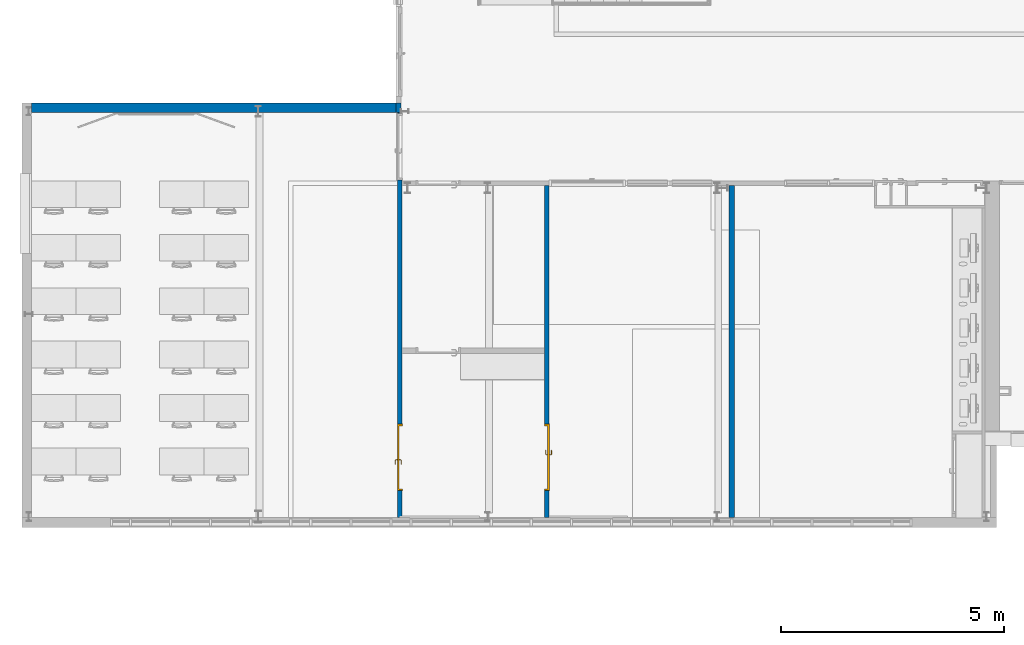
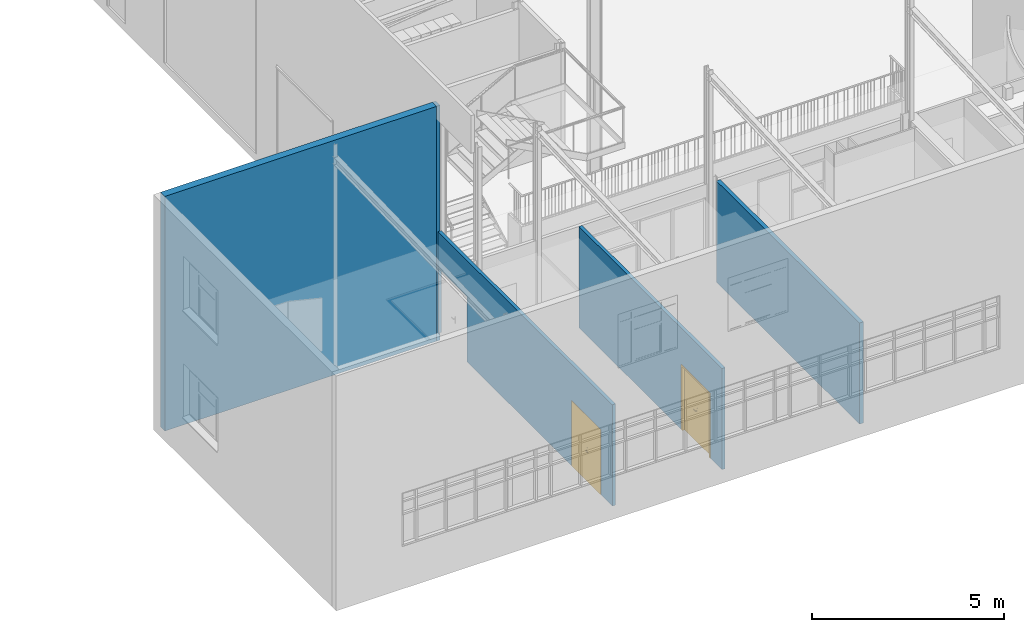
# One storey, part 36 of 137: 5 walls, 2 doors, 3 openings.
"""IFC2X3 building model written with IfcOpenShell, lengths in centimetres."""

import ifcopenshell
import ifcopenshell.guid

model = None  # the IFC model being written
_history = None  # IfcOwnerHistory: only IFC2X3 demands one
_inside = {}  # id of a spatial element -> (the spatial element, [elements in it])
_under = {}  # id of a project, library or spatial element -> (it, [spatial elements below it])
_declared = {}  # id of a project -> (the project, [libraries it declares])
_typed = {}  # id of a type object -> (the type object, [elements of that type])
_made_of = {}  # id of a material, layer set ... -> (it, [elements and type objects made of it])


def new_model(schema):
    """Start an empty IFC model of exactly this schema.

    Asked for "IFC4X3", IfcOpenShell would pick the latest addendum, in which some entities
    have other attributes; the version numbers below select the first issue.
    IFC2X3 requires an IfcOwnerHistory on every rooted entity: one is made here for all.
    """
    global model, _history
    if schema == "IFC4X3":
        model = ifcopenshell.file(schema_version=(4, 3, 0, 0))
    else:
        model = ifcopenshell.file(schema=schema)
    _inside.clear()
    _under.clear()
    _declared.clear()
    _typed.clear()
    _made_of.clear()
    _history = None
    if model.schema == "IFC2X3":
        org = make("IfcOrganization", Name="unknown")
        user = make(
            "IfcPersonAndOrganization",
            ThePerson=make("IfcPerson", FamilyName="unknown"),
            TheOrganization=org,
        )
        app = make(
            "IfcApplication",
            ApplicationDeveloper=org,
            Version="unknown",
            ApplicationFullName="unknown",
            ApplicationIdentifier="unknown",
        )
        _history = make(
            "IfcOwnerHistory",
            OwningUser=user,
            OwningApplication=app,
            ChangeAction="ADDED",
            CreationDate=0,
        )
    return model


def make(cls, **values):
    """One entity of the class cls with the attributes given. An attribute that is None is left unset."""
    return model.create_entity(
        cls, **{name: value for name, value in values.items() if value is not None}
    )


def entity(cls, *values):
    """Any entity or typed value of the class cls, its attributes in the order of the schema. None: left unset."""
    e = model.create_entity(cls)
    for i, value in enumerate(values):
        if value is not None:
            e[i] = value
    return e


def rooted(cls, **values):
    """An entity with a GlobalId (a new one), such as an element, a storey or a relation."""
    return make(cls, GlobalId=ifcopenshell.guid.new(), OwnerHistory=_history, **values)


def si_unit(unit_type, name, prefix=None):
    """IfcSIUnit, for example si_unit("LENGTHUNIT", "METRE", prefix="MILLI")."""
    return make("IfcSIUnit", UnitType=unit_type, Prefix=prefix, Name=name)


def converted_unit(unit_type, name, factor, base, dimensions=None, offset=None):
    """IfcConversionBasedUnit, such as the inch: factor (a typed value) times the base unit."""
    return make(
        "IfcConversionBasedUnit"
        if offset is None
        else "IfcConversionBasedUnitWithOffset",
        ConversionOffset=offset,
        Dimensions=None
        if dimensions is None
        else entity("IfcDimensionalExponents", *dimensions),
        UnitType=unit_type,
        Name=name,
        ConversionFactor=make(
            "IfcMeasureWithUnit", ValueComponent=factor, UnitComponent=base
        ),
    )


def derived_unit(unit_type, elements):
    """IfcDerivedUnit: a product of units, each with its exponent."""
    return make(
        "IfcDerivedUnit",
        Elements=[
            make("IfcDerivedUnitElement", Unit=unit, Exponent=power)
            for unit, power in elements
        ],
        UnitType=unit_type,
    )


def assignment(units):
    """IfcUnitAssignment: the units of a project."""
    return None if units is None else make("IfcUnitAssignment", Units=units)


def point(xyz):
    """IfcCartesianPoint."""
    return None if xyz is None else make("IfcCartesianPoint", Coordinates=xyz)


def direction(xyz):
    """IfcDirection."""
    return None if xyz is None else make("IfcDirection", DirectionRatios=xyz)


def frame(location, z_axis=None, x_axis=None):
    """IfcAxis2Placement3D, a coordinate frame: its origin and axes. An axis left out is left unset."""
    return make(
        "IfcAxis2Placement3D",
        Location=point(location),
        Axis=direction(z_axis),
        RefDirection=direction(x_axis),
    )


def frame_2d(location, x_axis=None):
    """IfcAxis2Placement2D, a coordinate frame in the plane: its origin and x axis."""
    return make(
        "IfcAxis2Placement2D", Location=point(location), RefDirection=direction(x_axis)
    )


def origin():
    """The frame at (0, 0, 0) with its axes left unset."""
    return frame((0.0, 0.0, 0.0))


def place(relative_to, where):
    """IfcLocalPlacement: puts the frame where relative to a parent placement (None: the world)."""
    return make(
        "IfcLocalPlacement", PlacementRelTo=relative_to, RelativePlacement=where
    )


def context(
    kind, dimensions, precision=None, world=None, true_north=None, identifier=None
):
    """IfcGeometricRepresentationContext, for example the 3D "Model" context."""
    return make(
        "IfcGeometricRepresentationContext",
        ContextIdentifier=identifier,
        ContextType=kind,
        CoordinateSpaceDimension=dimensions,
        Precision=precision,
        WorldCoordinateSystem=world,
        TrueNorth=true_north,
    )


def subcontext(parent, identifier, kind, view, scale=None):
    """IfcGeometricRepresentationSubContext, for example "Body" below "Model"."""
    return make(
        "IfcGeometricRepresentationSubContext",
        ContextIdentifier=identifier,
        ContextType=kind,
        ParentContext=parent,
        TargetScale=scale,
        TargetView=view,
    )


def project(units=None, contexts=None):
    """IfcProject with its units and contexts."""
    return rooted(
        "IfcProject",
        Name="project",
        RepresentationContexts=contexts,
        UnitsInContext=assignment(units),
    )


def spatial(cls, under=None, at=None, **own):
    """A site, building, storey or space (cls), placed at a placement, below another one or the project."""
    s = rooted(cls, ObjectPlacement=at, **own)
    if under is not None:
        _under.setdefault(under.id(), (under, []))[1].append(s)
    return s


def polyline(points):
    """IfcPolyline through the points."""
    return make("IfcPolyline", Points=[point(p) for p in points])


def profile(cls, at=None, kind="AREA", **sizes):
    """A parametric profile (cls). Its sizes go by their IFC names, for example OverallWidth=200.0."""
    return make(cls, ProfileType=kind, Position=at, **sizes)


def rectangle(**sizes):
    """IfcRectangleProfileDef."""
    return profile("IfcRectangleProfileDef", **sizes)


def extrude(swept, where, along, depth):
    """IfcExtrudedAreaSolid: the profile swept, set in the frame where, extruded along a direction by depth."""
    return make(
        "IfcExtrudedAreaSolid",
        SweptArea=swept,
        Position=where,
        ExtrudedDirection=direction(along),
        Depth=depth,
    )


def clip(a, b, op="DIFFERENCE"):
    """IfcBooleanClippingResult: the solid a cut by the half space b."""
    return make(
        "IfcBooleanClippingResult", Operator=op, FirstOperand=a, SecondOperand=b
    )


def bounded_halfspace(plane, agree, where, boundary):
    """IfcPolygonalBoundedHalfSpace: a half space limited to a polygon's prism."""
    return make(
        "IfcPolygonalBoundedHalfSpace",
        BaseSurface=make("IfcPlane", Position=plane),
        AgreementFlag=agree,
        Position=where,
        PolygonalBoundary=boundary,
    )


def faces_of(points, faces, orient=None, outer=None):
    """IfcFace entities. A face is a list of loops; a loop is a list of indices into points, from 0.

    orient and outer hold one flag for each loop. By default every Orientation is true, the
    first loop of a face is its IfcFaceOuterBound and the others are IfcFaceBound.
    """
    made = []
    for i, loops in enumerate(faces):
        bounds = []
        for j, loop in enumerate(loops):
            is_outer = j == 0 if outer is None else outer[i][j]
            bounds.append(
                make(
                    "IfcFaceOuterBound" if is_outer else "IfcFaceBound",
                    Bound=make("IfcPolyLoop", Polygon=[points[k] for k in loop]),
                    Orientation=True if orient is None else orient[i][j],
                )
            )
        made.append(make("IfcFace", Bounds=bounds))
    return made


def faceted_brep(points, faces, orient=None, outer=None, voids=None):
    """IfcFacetedBrep: a solid bounded by flat faces; with voids (closed shells), ...WithVoids."""
    shared = [point(p) for p in points]
    hull = make("IfcClosedShell", CfsFaces=faces_of(shared, faces, orient, outer))
    if voids is None:
        return make("IfcFacetedBrep", Outer=hull)
    return make(
        "IfcFacetedBrepWithVoids",
        Outer=hull,
        Voids=[
            make(cls, CfsFaces=faces_of(shared, fs, o, b)) for cls, fs, o, b in voids
        ],
    )


def shape(context_of_items, identifier, shape_type, items):
    """IfcShapeRepresentation: the items that make up one representation, for example the "Body"."""
    return make(
        "IfcShapeRepresentation",
        ContextOfItems=context_of_items,
        RepresentationIdentifier=identifier,
        RepresentationType=shape_type,
        Items=items,
    )


def source(mapping_origin, context_of_items, identifier, shape_type, items):
    """IfcRepresentationMap: a shape defined once, which mapped items show again and again."""
    return make(
        "IfcRepresentationMap",
        MappingOrigin=mapping_origin,
        MappedRepresentation=shape(context_of_items, identifier, shape_type, items),
    )


def transform(
    local_origin,
    x_axis=None,
    y_axis=None,
    z_axis=None,
    scale=None,
    scale2=None,
    scale3=None,
    uniform=True,
):
    """IfcCartesianTransformationOperator3D, or its non-uniform kind. x_axis, y_axis, z_axis: its Axis1, 2, 3."""
    if uniform:
        return make(
            "IfcCartesianTransformationOperator3D",
            Axis1=direction(x_axis),
            Axis2=direction(y_axis),
            LocalOrigin=point(local_origin),
            Scale=scale,
            Axis3=direction(z_axis),
        )
    return make(
        "IfcCartesianTransformationOperator3DnonUniform",
        Axis1=direction(x_axis),
        Axis2=direction(y_axis),
        LocalOrigin=point(local_origin),
        Scale=scale,
        Axis3=direction(z_axis),
        Scale2=scale2,
        Scale3=scale3,
    )


def mapped(mapping_source, mapping_target):
    """IfcMappedItem: shows the shape of a source again, moved by a transform."""
    return make(
        "IfcMappedItem", MappingSource=mapping_source, MappingTarget=mapping_target
    )


def material(Name=None, Category=None):
    """IfcMaterial."""
    return make("IfcMaterial", Name=Name, Category=Category)


def material_list(materials):
    """IfcMaterialList."""
    return make("IfcMaterialList", Materials=materials)


def layer(
    of_material, thickness, ventilated=None, Name=None, Category=None, Priority=None
):
    """IfcMaterialLayer: one layer of a wall or slab, of a material (None: an air gap)."""
    return make(
        "IfcMaterialLayer",
        Material=of_material,
        LayerThickness=thickness,
        IsVentilated=ventilated,
        Name=Name,
        Category=Category,
        Priority=Priority,
    )


def layer_set(layers, Name=None):
    """IfcMaterialLayerSet."""
    return make("IfcMaterialLayerSet", MaterialLayers=layers, LayerSetName=Name)


def layer_usage(for_layer_set, set_direction, sense, offset, extent=None):
    """IfcMaterialLayerSetUsage: how a layer set lies in its element."""
    return make(
        "IfcMaterialLayerSetUsage",
        ForLayerSet=for_layer_set,
        LayerSetDirection=set_direction,
        DirectionSense=sense,
        OffsetFromReferenceLine=offset,
        ReferenceExtent=extent,
    )


def made_of(thing, what):
    """Note that an element or type object is made of a material, layer set ...; save() writes the relation."""
    if what is not None:
        _made_of.setdefault(what.id(), (what, []))[1].append(thing)
    return thing


def type_object(cls, material=None, **own):
    """A type object (cls), such as IfcWallType, which elements share."""
    return made_of(rooted(cls, **own), material)


def type_shapes(of_type, sources):
    """Give a type object the sources (RepresentationMaps) that its elements show as mapped items."""
    of_type.RepresentationMaps = sources


def element(
    cls,
    number,
    at=None,
    inside=None,
    cuts=None,
    type_object=None,
    material=None,
    context=None,
    identifier="Body",
    shape_type=None,
    held_by="IfcProductDefinitionShape",
    body=None,
    shapes=None,
    **own,
):
    """One element of the class cls, such as IfcWall. Its Tag is "e" and its number.

    at: its placement. inside: the storey or other place that contains it. cuts: it is an
    opening in that element (IfcRelVoidsElement). A single representation is given by context,
    identifier, shape_type and body (its items); several are given by shapes. held_by: the class
    of the entity that holds the representations. save() writes the other relations.
    """
    e = rooted(cls, Tag="e%d" % number, ObjectPlacement=at, **own)
    if body is not None:
        shapes = [shape(context, identifier, shape_type, body)]
    if shapes is not None:
        e.Representation = make(held_by, Representations=shapes)
    if inside is not None:
        _inside.setdefault(inside.id(), (inside, []))[1].append(e)
    if cuts is not None:
        rooted(
            "IfcRelVoidsElement", RelatingBuildingElement=cuts, RelatedOpeningElement=e
        )
    if type_object is not None:
        _typed.setdefault(type_object.id(), (type_object, []))[1].append(e)
    return made_of(e, material)


def fill(opening, filler):
    """IfcRelFillsElement: the door or window that sits in an opening."""
    return rooted(
        "IfcRelFillsElement",
        RelatingOpeningElement=opening,
        RelatedBuildingElement=filler,
    )


def aggregate(whole, parts):
    """IfcRelAggregates: a whole, such as a stair, and the parts it consists of."""
    return rooted("IfcRelAggregates", RelatingObject=whole, RelatedObjects=parts)


def save(model, path):
    """Write the relations noted so far, then the file.

    IfcRelAggregates (storeys below a building ...), IfcRelContainedInSpatialStructure (elements
    in a storey), IfcRelDefinesByType, IfcRelAssociatesMaterial and IfcRelDeclares: one each for
    every whole, place, type object, material and project.
    """
    for whole, parts in _under.values():
        aggregate(whole, parts)
    for where, things in _inside.values():
        rooted(
            "IfcRelContainedInSpatialStructure",
            RelatedElements=things,
            RelatingStructure=where,
        )
    for kind, things in _typed.values():
        rooted("IfcRelDefinesByType", RelatedObjects=things, RelatingType=kind)
    for what, things in _made_of.values():
        rooted("IfcRelAssociatesMaterial", RelatedObjects=things, RelatingMaterial=what)
    for by, libraries in _declared.values():
        rooted("IfcRelDeclares", RelatingContext=by, RelatedDefinitions=libraries)
    model.write(path)


model = new_model("IFC2X3")

# Units and contexts
model_context = context("Model", 3, precision=0.001, world=origin(), true_north=direction((6.12303176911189e-17, 1.0)))
body_context = subcontext(model_context, "Body", "Model", "MODEL_VIEW")
ifc_project = project(units=[si_unit("LENGTHUNIT", "METRE", prefix="CENTI"), si_unit("AREAUNIT", "SQUARE_METRE"), si_unit("VOLUMEUNIT", "CUBIC_METRE"), converted_unit("PLANEANGLEUNIT", "DEGREE", entity("IfcRatioMeasure", 0.0174532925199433), si_unit("PLANEANGLEUNIT", "RADIAN"), dimensions=[0, 0, 0, 0, 0, 0, 0]), si_unit("MASSUNIT", "GRAM", prefix="KILO"), si_unit("TIMEUNIT", "SECOND"), si_unit("FREQUENCYUNIT", "HERTZ"), si_unit("THERMODYNAMICTEMPERATUREUNIT", "DEGREE_CELSIUS"), derived_unit("THERMALTRANSMITTANCEUNIT", [(si_unit("MASSUNIT", "GRAM", prefix="KILO"), 1), (si_unit("THERMODYNAMICTEMPERATUREUNIT", "KELVIN"), -1), (si_unit("TIMEUNIT", "SECOND"), -3)]), derived_unit("VOLUMETRICFLOWRATEUNIT", [(si_unit("LENGTHUNIT", "METRE"), 3), (si_unit("TIMEUNIT", "SECOND"), -1)]), si_unit("ELECTRICCURRENTUNIT", "AMPERE"), si_unit("ELECTRICVOLTAGEUNIT", "VOLT"), si_unit("POWERUNIT", "WATT"), si_unit("FORCEUNIT", "NEWTON", prefix="KILO"), si_unit("ILLUMINANCEUNIT", "LUX"), si_unit("LUMINOUSFLUXUNIT", "LUMEN"), si_unit("LUMINOUSINTENSITYUNIT", "CANDELA"), derived_unit("USERDEFINED", [(si_unit("MASSUNIT", "GRAM", prefix="KILO"), -1), (si_unit("LENGTHUNIT", "METRE"), -2), (si_unit("TIMEUNIT", "SECOND"), 3), (si_unit("LUMINOUSFLUXUNIT", "LUMEN"), 1)]), derived_unit("LINEARVELOCITYUNIT", [(si_unit("LENGTHUNIT", "METRE"), 1), (si_unit("TIMEUNIT", "SECOND"), -1)]), si_unit("PRESSUREUNIT", "PASCAL"), derived_unit("USERDEFINED", [(si_unit("LENGTHUNIT", "METRE"), -2), (si_unit("MASSUNIT", "GRAM", prefix="KILO"), 1), (si_unit("TIMEUNIT", "SECOND"), -2)])], contexts=[model_context])

# Site, building, storey
site_placement = place(None, frame((8.62739174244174, -249.285249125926, 0.0)))
site = spatial("IfcSite", under=ifc_project, at=site_placement, Name="Default", CompositionType="ELEMENT")
building_placement = place(site_placement, origin())
building = spatial("IfcBuilding", under=site, at=building_placement, CompositionType="ELEMENT")
storey_placement = place(building_placement, origin())
storey = spatial("IfcBuildingStorey", under=building, at=storey_placement, Name="RDC", CompositionType="ELEMENT", Elevation=-8.82465566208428e-11)

# Walls
ifc_material_1 = material(Name="Tôle/Doublage")
ifc_layer_1 = layer(ifc_material_1, 4.0)
ifc_material_2 = material(Name="Laine minérale")
ifc_layer_2 = layer(ifc_material_2, 16.0)
ifc_material_3 = material(Name="Plâtre")
ifc_layer_3 = layer(ifc_material_3, 2.0)
ifc_layer_set_1 = layer_set([ifc_layer_1, ifc_layer_2, ifc_layer_3], Name="Mur de base:MET 4 + ISO 16 + PLA 2")
ifc_layer_usage_1 = layer_usage(ifc_layer_set_1, "AXIS2", "NEGATIVE", 11.0)
wall_type_1 = type_object("IfcWallType", Name="Mur de base:MET 4 + ISO 16 + PLA 2", PredefinedType="STANDARD", material=ifc_layer_set_1)
wall_1_placement = place(storey_placement, frame((22.0, 942.0, -25.0)))
element("IfcWallStandardCase", 1, at=wall_1_placement, inside=storey, type_object=wall_type_1, material=ifc_layer_usage_1, Name="Mur de base:MET 4 + ISO 16 + PLA 2", ObjectType="Mur de base:MET 4 + ISO 16 + PLA 2", context=body_context, shape_type="SweptSolid", body=[
    extrude(rectangle(XDim=828.904827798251, YDim=22.0, at=frame_2d((414.452413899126, -7.99360577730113e-15), x_axis=(-1.0, 0.0))), origin(), (0.0, 0.0, 1.0), 747.000000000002),
])
ifc_layer_usage_2 = layer_usage(ifc_layer_set_1, "AXIS2", "NEGATIVE", 11.0)
wall_2_placement = place(storey_placement, frame((22.0, 942.0, -25.0)))
element("IfcWallStandardCase", 2, at=wall_2_placement, inside=storey, type_object=wall_type_1, material=ifc_layer_usage_2, Name="Mur de base:MET 4 + ISO 16 + PLA 2", ObjectType="Mur de base:MET 4 + ISO 16 + PLA 2", context=body_context, shape_type="SweptSolid", body=[
    extrude(rectangle(XDim=817.904827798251, YDim=22.0, at=frame_2d((408.952413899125, 1.06581410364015e-14), x_axis=(-1.0, 0.0))), origin(), (0.0, 0.0, 1.0), 747.000000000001),
])

# Wall, opening, door
ifc_material_4 = material(Name="Plâtre EXISTANT")
ifc_layer_4 = layer(ifc_material_4, 10.0)
ifc_layer_set_2 = layer_set([ifc_layer_4], Name="Mur de base:PLA EXISTANT 10")
ifc_layer_usage_3 = layer_usage(ifc_layer_set_2, "AXIS2", "NEGATIVE", 5.0)
wall_type_2 = type_object("IfcWallType", Name="Mur de base:PLA EXISTANT 10", PredefinedType="STANDARD", material=ifc_layer_set_2)
wall_3_placement = place(storey_placement, frame((1179.0, 22.0, 0.0), z_axis=(0.0, 0.0, 1.0), x_axis=(0.0, 1.0, 0.0)))
wall_3 = element("IfcWallStandardCase", 3, at=wall_3_placement, inside=storey, type_object=wall_type_2, material=ifc_layer_usage_3, Name="Mur de base:PLA EXISTANT 10", ObjectType="Mur de base:PLA EXISTANT 10", context=body_context, shape_type="Clipping", body=[
    clip(extrude(rectangle(XDim=746.0, YDim=9.99999999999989, at=frame_2d((373.0, -1.02140518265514e-14), x_axis=(-1.0, 0.0))), origin(), (0.0, 0.0, 1.0), 322.000000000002), bounded_halfspace(frame((0.0, -5.0, 322.0), z_axis=(0.0, 0.0, -1.0), x_axis=(0.0, 1.0, 0.0)), True, frame((0.0, -5.0, 322.0)), polyline([(0.0, 0.0), (746.0, 0.0), (746.0, 10.0), (381.0, 10.0), (369.0, 10.0), (0.0, 10.0), (0.0, 0.0)]))),
])
opening_1_placement = place(wall_3_placement, frame((209.780000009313, 5.0, 0.0)))
opening_1 = element("IfcOpeningElement", 4, at=opening_1_placement, cuts=wall_3, Name="Double(R)_bois_Existant_mu:143 x 204 cm:1", ObjectType="Opening", context=body_context, shape_type="SweptSolid", body=[
    extrude(rectangle(XDim=206.999999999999, YDim=149.0, at=frame_2d((103.499999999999, 74.4999999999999), x_axis=(1.0, 0.0))), frame((0.0, 0.0, 0.0), z_axis=(0.0, -1.0, 0.0), x_axis=(0.0, 0.0, 1.0)), (0.0, 0.0, 1.0), 10.0),
])
ifc_material_5 = material(Name="Porte - Poignée")
ifc_material_6 = material(Name="Porte - Cadre")
ifc_material_7 = material(Name="Porte - Panneau")
ifc_material_list_1 = material_list([ifc_material_5, ifc_material_6, ifc_material_7])
ifc_material_list_2 = material_list([ifc_material_5, ifc_material_6, ifc_material_7])
door_style = type_object("IfcDoorStyle", Name="143 x 204 cm", ConstructionType="NOTDEFINED", OperationType="DOUBLE_DOOR_SINGLE_SWING", ParameterTakesPrecedence=False, Sizeable=False, material=ifc_material_list_2)
shared_shape = source(origin(), body_context, "Body", "Brep", [
    faceted_brep([(79.7974701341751, 3.69999999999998, 100.778044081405), (79.3999999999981, 3.69999999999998, 100.699999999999), (79.3999999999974, 3.69999999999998, 99.2999999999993), (79.7974701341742, 3.69999999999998, 99.2219559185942), (80.2025298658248, 3.69999999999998, 99.2219559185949), (80.6000000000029, 3.69999999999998, 99.3000000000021), (80.6000000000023, 3.69999999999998, 100.699999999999), (80.2025298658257, 3.69999999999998, 100.778044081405), (80.6000000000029, 5.94852045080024, 99.3000000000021), (80.6000000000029, 5.94852045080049, 100.699999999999), (80.2025298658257, 6.1131579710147, 100.778044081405), (81.5838906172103, 7.49451872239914, 100.778044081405), (81.4161093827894, 7.89957845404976, 100.778044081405), (79.7974701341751, 6.2809392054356, 100.778044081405), (90.5684749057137, 6.84673156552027, 100.778044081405), (90.8548953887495, 7.13315204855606, 100.778044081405), (90.0884689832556, 7.89957845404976, 100.778044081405), (89.9206877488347, 7.49451872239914, 100.778044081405), (79.3999999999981, 6.44557672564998, 100.699999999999), (79.3999999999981, 6.44557672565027, 99.2999999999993), (79.7974701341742, 6.28093920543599, 99.2219559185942), (81.416109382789, 7.8995784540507, 99.2219559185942), (81.5838906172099, 7.49451872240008, 99.2219559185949), (80.2025298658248, 6.11315797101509, 99.2219559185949), (90.8548953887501, 7.1331520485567, 99.2219559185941), (90.5684749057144, 6.84673156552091, 99.2219559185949), (89.9206877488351, 7.49451872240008, 99.2219559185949), (90.088468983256, 7.8995784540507, 99.2219559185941), (81.7485281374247, 7.09704858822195, 99.3000000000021), (81.7485281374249, 7.09704858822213, 100.699999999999), (81.2514718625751, 8.29704858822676, 100.699999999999), (81.2514718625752, 8.29704858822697, 99.2999999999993), (85.7522904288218, 7.09704858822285, 99.3000000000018), (89.7560502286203, 7.09704858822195, 99.3000000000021), (89.7560502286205, 7.09704858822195, 100.699999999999), (85.7522891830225, 7.09704858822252, 100.699999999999), (85.7522891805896, 7.71249275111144, 100.787811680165), (90.2531065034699, 8.29704858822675, 100.699999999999), (86.260057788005, 8.29704858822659, 100.699999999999), (90.2531065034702, 8.29704858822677, 99.2999999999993), (85.2445206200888, 8.29704858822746, 99.2999999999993), (85.7522892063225, 7.71249274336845, 99.2121883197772), (90.2874210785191, 6.56567773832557, 99.3000000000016), (91.1359492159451, 7.41420587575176, 99.2999999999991), (91.1359492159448, 7.4142058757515, 100.699999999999), (90.2874210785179, 6.5656777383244, 100.699999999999)], [[[0, 1, 2, 3, 4, 5, 6, 7]], [[6, 5, 8, 9]], [[9, 10, 7, 6]], [[10, 11, 12, 13, 0, 7]], [[14, 15, 16, 17]], [[13, 18, 1, 0]], [[2, 1, 18, 19]], [[19, 20, 3, 2]], [[20, 21, 22, 23, 4, 3]], [[24, 25, 26, 27]], [[23, 8, 5, 4]], [[9, 8, 28, 29]], [[29, 11, 10, 9]], [[12, 30, 18, 13]], [[19, 18, 30, 31]], [[31, 21, 20, 19]], [[22, 28, 8, 23]], [[29, 28, 32, 33, 34, 35]], [[11, 35, 36]], [[16, 37, 38]], [[30, 12, 38]], [[38, 12, 36]], [[36, 35, 17]], [[17, 16, 36]], [[35, 11, 29]], [[34, 17, 35]], [[11, 36, 12]], [[38, 36, 16]], [[31, 30, 38, 37, 39, 40]], [[40, 41, 21]], [[41, 40, 27]], [[21, 31, 40]], [[39, 27, 40]], [[41, 32, 22]], [[22, 21, 41]], [[26, 32, 41]], [[28, 22, 32]], [[32, 26, 33]], [[26, 41, 27]], [[42, 25, 24, 43, 44, 15, 14, 45]], [[34, 33, 42, 45]], [[45, 14, 17, 34]], [[15, 44, 37, 16]], [[39, 37, 44, 43]], [[43, 24, 27, 39]], [[25, 42, 33, 26]]]),
    faceted_brep([(79.7974701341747, -1.30000000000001, 100.778044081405), (80.2025298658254, -1.30000000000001, 100.778044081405), (80.6000000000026, -1.30000000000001, 100.699999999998), (80.600000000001, -1.30000000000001, 99.3000000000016), (80.2025298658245, -1.30000000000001, 99.2219559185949), (79.7974701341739, -1.30000000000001, 99.2219559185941), (79.3999999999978, -1.30000000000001, 99.2999999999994), (79.3999999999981, -1.30000000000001, 100.699999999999), (79.3999999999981, -4.06509507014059, 100.699999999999), (79.7974701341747, -3.90045754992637, 100.778044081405), (81.4023585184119, -5.50534593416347, 100.778044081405), (81.5701397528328, -5.10028620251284, 100.778044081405), (80.2025298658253, -3.73267631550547, 100.778044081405), (90.8521810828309, -4.73891952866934, 100.778044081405), (90.5657605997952, -4.4524990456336, 100.778044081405), (89.917973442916, -5.10028620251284, 100.778044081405), (90.0857546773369, -5.50534593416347, 100.778044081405), (80.6000000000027, -3.56803879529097, 100.699999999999), (80.6000000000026, -3.56803879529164, 99.3000000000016), (80.2025298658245, -3.7326763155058, 99.2219559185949), (81.5701397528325, -5.10028620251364, 99.2219559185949), (81.4023585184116, -5.50534593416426, 99.2219559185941), (79.7974701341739, -3.9004575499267, 99.2219559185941), (90.5657605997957, -4.45249904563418, 99.2219559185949), (90.8521810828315, -4.73891952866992, 99.2219559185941), (90.0857546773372, -5.50534593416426, 99.2219559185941), (89.9179734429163, -5.10028620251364, 99.2219559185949), (79.3999999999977, -4.06509507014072, 99.2999999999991), (81.2377209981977, -5.90281606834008, 100.699999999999), (81.7347772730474, -4.70281606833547, 100.699999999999), (81.7347772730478, -4.70281606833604, 99.3000000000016), (81.2377209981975, -5.90281606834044, 99.2999999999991), (85.2307697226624, -5.90281606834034, 100.699999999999), (85.7440566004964, -5.31828027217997, 100.787811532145), (90.2503921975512, -5.90281606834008, 100.699999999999), (85.7440565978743, -4.70281606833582, 100.699999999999), (89.7533359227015, -4.70281606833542, 100.699999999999), (89.7533359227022, -4.70281606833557, 99.3000000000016), (85.7440563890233, -4.70281606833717, 99.3000000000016), (85.7440565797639, -5.31828027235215, 99.2121884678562), (90.2503921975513, -5.90281606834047, 99.2999999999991), (86.2573433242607, -5.90281606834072, 99.2999999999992), (90.2847067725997, -4.1714452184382, 100.699999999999), (91.1332349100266, -5.01997335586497, 100.699999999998), (91.133234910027, -5.01997335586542, 99.2999999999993), (90.2847067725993, -4.17144521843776, 99.3000000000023)], [[[0, 1, 2, 3, 4, 5, 6, 7]], [[8, 9, 0, 7]], [[9, 10, 11, 12, 1, 0]], [[13, 14, 15, 16]], [[12, 17, 2, 1]], [[3, 2, 17, 18]], [[18, 19, 4, 3]], [[19, 20, 21, 22, 5, 4]], [[23, 24, 25, 26]], [[22, 27, 6, 5]], [[7, 6, 27, 8]], [[28, 10, 9, 8]], [[11, 29, 17, 12]], [[18, 17, 29, 30]], [[30, 20, 19, 18]], [[21, 31, 27, 22]], [[8, 27, 31, 28]], [[32, 33, 10]], [[33, 32, 16]], [[10, 28, 32]], [[34, 16, 32]], [[33, 35, 11]], [[11, 10, 33]], [[15, 35, 33]], [[29, 11, 35]], [[35, 15, 36]], [[15, 33, 16]], [[30, 29, 35, 36, 37, 38]], [[20, 38, 39]], [[25, 40, 41]], [[31, 21, 41]], [[41, 21, 39]], [[39, 38, 26]], [[26, 25, 39]], [[38, 20, 30]], [[37, 26, 38]], [[20, 39, 21]], [[41, 39, 25]], [[28, 31, 41, 40, 34, 32]], [[42, 14, 13, 43, 44, 24, 23, 45]], [[43, 13, 16, 34]], [[14, 42, 36, 15]], [[37, 36, 42, 45]], [[45, 23, 26, 37]], [[24, 44, 40, 25]], [[34, 40, 44, 43]]]),
    faceted_brep([(81.0352761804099, 3.19999999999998, 86.6003983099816), (82.0, 3.19999999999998, 87.0), (82.0, 3.19999999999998, 108.0), (81.0352761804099, 3.19999999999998, 108.399601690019), (80.0, 3.19999999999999, 108.535898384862), (78.9647238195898, 3.19999999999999, 108.399601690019), (78.0, 3.19999999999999, 108.0), (78.0, 3.19999999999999, 87.0), (78.9647238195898, 3.19999999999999, 86.6003983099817), (80.0, 3.19999999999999, 86.4641016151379), (81.0352761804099, 3.69999999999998, 108.399601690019), (82.0, 3.69999999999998, 108.0), (82.0, 3.69999999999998, 87.0), (81.0352761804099, 3.69999999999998, 86.6003983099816), (80.0, 3.69999999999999, 86.4641016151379), (78.9647238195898, 3.69999999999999, 86.6003983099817), (78.0, 3.69999999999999, 87.0), (78.0, 3.69999999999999, 108.0), (78.9647238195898, 3.69999999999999, 108.399601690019), (80.0, 3.69999999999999, 108.535898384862)], [[[0, 1, 2, 3, 4, 5, 6, 7, 8, 9]], [[10, 11, 12, 13, 14, 15, 16, 17, 18, 19]], [[11, 10, 3, 2]], [[3, 10, 19, 4]], [[19, 18, 5, 4]], [[18, 17, 6, 5]], [[7, 6, 17, 16]], [[16, 15, 8, 7]], [[8, 15, 14, 9]], [[14, 13, 0, 9]], [[13, 12, 1, 0]], [[2, 1, 12, 11]]]),
    faceted_brep([(81.0352761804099, -1.30000000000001, 86.6003983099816), (82.0, -1.30000000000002, 87.0), (82.0, -1.30000000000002, 108.0), (81.0352761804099, -1.30000000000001, 108.399601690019), (80.0, -1.30000000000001, 108.535898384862), (78.9647238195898, -1.30000000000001, 108.399601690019), (78.0, -1.3, 108.0), (78.0, -1.3, 87.0), (78.9647238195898, -1.30000000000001, 86.6003983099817), (80.0, -1.30000000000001, 86.4641016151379), (81.0352761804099, -0.800000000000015, 108.399601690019), (82.0, -0.800000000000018, 108.0), (82.0, -0.800000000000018, 87.0), (81.0352761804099, -0.800000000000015, 86.6003983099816), (80.0, -0.800000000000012, 86.4641016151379), (78.9647238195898, -0.800000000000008, 86.6003983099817), (78.0, -0.800000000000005, 87.0), (78.0, -0.800000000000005, 108.0), (78.9647238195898, -0.800000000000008, 108.399601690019), (80.0, -0.800000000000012, 108.535898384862)], [[[0, 1, 2, 3, 4, 5, 6, 7, 8, 9]], [[10, 11, 12, 13, 14, 15, 16, 17, 18, 19]], [[16, 15, 8, 7]], [[8, 15, 14, 9]], [[14, 13, 0, 9]], [[13, 12, 1, 0]], [[2, 1, 12, 11]], [[11, 10, 3, 2]], [[3, 10, 19, 4]], [[19, 18, 5, 4]], [[18, 17, 6, 5]], [[7, 6, 17, 16]]]),
    faceted_brep([(0.0, 0.0, 0.0), (0.0, 10.0, 0.0), (-1.0, 10.0, 0.0), (-1.0, 10.8000000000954, 0.0), (4.0, 10.8000000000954, 0.0), (4.0, 3.2, 0.0), (3.0, 3.2, 0.0), (3.0, -0.799999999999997, 0.0), (-1.0, -0.799999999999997, 0.0), (-1.0, 0.0, 0.0), (0.0, 0.0, 207.0), (0.0, 10.0, 207.0), (149.0, 10.0, 207.0), (149.0, 10.0, 0.0), (150.0, 10.0, 0.0), (150.0, 10.0, 208.0), (-1.0, 10.0, 208.0), (-1.0, 10.8000000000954, 208.0), (150.0, 10.8000000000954, 208.0), (150.0, 10.8000000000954, 0.0), (145.0, 10.8000000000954, 0.0), (145.0, 10.8000000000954, 203.0), (4.0, 10.8000000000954, 203.0), (4.0, 3.2, 203.0), (145.0, 3.2, 203.0), (145.0, 3.2, 0.0), (146.0, 3.2, 0.0), (146.0, 3.2, 204.0), (3.0, 3.2, 204.0), (3.0, -0.799999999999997, 204.0), (146.0, -0.799999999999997, 204.0), (146.0, -0.799999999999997, 0.0), (150.0, -0.799999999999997, 0.0), (150.0, -0.799999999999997, 208.0), (-1.0, -0.799999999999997, 208.0), (-1.0, 0.0, 208.0), (150.0, 0.0, 208.0), (150.0, 0.0, 0.0), (149.0, 0.0, 0.0), (149.0, 0.0, 207.0)], [[[0, 1, 2, 3, 4, 5, 6, 7, 8, 9]], [[1, 0, 10, 11]], [[2, 1, 11, 12, 13, 14, 15, 16]], [[3, 2, 16, 17]], [[4, 3, 17, 18, 19, 20, 21, 22]], [[5, 4, 22, 23]], [[6, 5, 23, 24, 25, 26, 27, 28]], [[7, 6, 28, 29]], [[8, 7, 29, 30, 31, 32, 33, 34]], [[9, 8, 34, 35]], [[0, 9, 35, 36, 37, 38, 39, 10]], [[12, 39, 38, 13]], [[38, 37, 32, 31, 26, 25, 20, 19, 14, 13]], [[18, 15, 14, 19]], [[24, 21, 20, 25]], [[30, 27, 26, 31]], [[36, 33, 32, 37]], [[11, 10, 39, 12]], [[17, 16, 15, 18]], [[23, 22, 21, 24]], [[29, 28, 27, 30]], [[35, 34, 33, 36]]]),
    faceted_brep([(146.0, -0.799999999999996, 0.0), (146.0, -0.799999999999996, 204.0), (74.4999999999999, -0.799999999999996, 204.0), (74.4999999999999, -0.799999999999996, 0.0), (146.0, 3.2, 0.0), (74.4999999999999, 3.2, 0.0), (74.4999999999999, 3.2, 204.0), (146.0, 3.2, 204.0)], [[[0, 1, 2, 3]], [[4, 5, 6, 7]], [[1, 0, 4, 7]], [[2, 1, 7, 6]], [[3, 2, 6, 5]], [[0, 3, 5, 4]]]),
    faceted_brep([(3.0, -0.799999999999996, 204.0), (3.0, -0.799999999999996, 0.0), (74.4999999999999, -0.799999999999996, 0.0), (74.4999999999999, -0.799999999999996, 204.0), (3.0, 3.2, 204.0), (74.4999999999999, 3.2, 204.0), (74.4999999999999, 3.2, 0.0), (3.0, 3.2, 0.0)], [[[0, 1, 2, 3]], [[4, 5, 6, 7]], [[1, 0, 4, 7]], [[2, 1, 7, 6]], [[3, 2, 6, 5]], [[0, 3, 5, 4]]]),
])
type_shapes(door_style, [shared_shape])
door_1_placement = place(opening_1_placement, frame((-149.0, -10.0, 0.0)))
door_1 = element("IfcDoor", 5, at=door_1_placement, inside=storey, type_object=door_style, material=ifc_material_list_1, Name="Double(R)_bois_Existant_mu:143 x 204 cm", ObjectType="143 x 204 cm", OverallHeight=206.999999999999, OverallWidth=149.0, context=body_context, shape_type="MappedRepresentation", body=[
    mapped(shared_shape, transform((0.0, 0.0, 0.0), scale=1.0)),
])
fill(opening_1, door_1)

# Wall, openings, door
ifc_layer_usage_4 = layer_usage(ifc_layer_set_2, "AXIS2", "NEGATIVE", 5.0)
wall_4_placement = place(storey_placement, frame((849.0, 931.0, 0.0), z_axis=(0.0, 0.0, 1.0), x_axis=(0.0, -1.0, 0.0)))
wall_4 = element("IfcWallStandardCase", 6, at=wall_4_placement, inside=storey, type_object=wall_type_2, material=ifc_layer_usage_4, Name="Mur de base:PLA EXISTANT 10", ObjectType="Mur de base:PLA EXISTANT 10", context=body_context, shape_type="Clipping", body=[
    clip(extrude(rectangle(XDim=909.0, YDim=10.0000000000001, at=frame_2d((454.5, -2.66453525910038e-15), x_axis=(-1.0, 0.0))), origin(), (0.0, 0.0, 1.0), 322.000000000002), bounded_halfspace(frame((0.0, -5.0, 322.0), z_axis=(0.0, 0.0, -1.0), x_axis=(0.0, -1.0, 0.0)), True, frame((0.0, -5.0, 322.0)), polyline([(0.0, 0.0), (909.0, 0.0), (909.0, 10.0), (540.0, 10.0), (528.0, 10.0), (163.0, 10.0), (153.0, 10.0), (0.0, 10.0), (0.0, 0.0)]))),
])
opening_2_placement = place(wall_4_placement, frame((848.219999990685, 5.0, 0.0)))
opening_2 = element("IfcOpeningElement", 7, at=opening_2_placement, cuts=wall_4, Name="Double(R)_bois_Existant_mu:143 x 204 cm:1", ObjectType="Opening", context=body_context, shape_type="SweptSolid", body=[
    extrude(rectangle(XDim=206.999999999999, YDim=149.0, at=frame_2d((103.499999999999, 74.4999999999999), x_axis=(1.0, 0.0))), frame((0.0, 0.0, 0.0), z_axis=(0.0, -1.0, 0.0), x_axis=(0.0, 0.0, 1.0)), (0.0, 0.0, 1.0), 10.0),
])
opening_3_placement = place(wall_4_placement, frame((151.0, 5.0, 0.0)))
element("IfcOpeningElement", 8, at=opening_3_placement, cuts=wall_4, Name="Tierce(R)_bois_mu:143 x 204 cm:1", ObjectType="Opening", context=body_context, shape_type="SweptSolid", body=[
    extrude(rectangle(XDim=206.999999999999, YDim=149.0, at=frame_2d((103.499999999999, 74.4999999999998), x_axis=(1.0, 0.0))), frame((0.0, 0.0, 0.0), z_axis=(0.0, -1.0, 0.0), x_axis=(0.0, 0.0, 1.0)), (0.0, 0.0, 1.0), 10.0),
])
ifc_material_list_3 = material_list([ifc_material_5, ifc_material_6, ifc_material_7])
door_2_placement = place(opening_2_placement, frame((-149.0, -10.0, 0.0)))
door_2 = element("IfcDoor", 9, at=door_2_placement, inside=storey, type_object=door_style, material=ifc_material_list_3, Name="Double(R)_bois_Existant_mu:143 x 204 cm", ObjectType="143 x 204 cm", OverallHeight=206.999999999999, OverallWidth=149.0, context=body_context, shape_type="MappedRepresentation", body=[
    mapped(shared_shape, transform((0.0, 0.0, 0.0), scale=1.0)),
])
fill(opening_2, door_2)

# Wall
ifc_layer_5 = layer(ifc_material_3, 12.0)
ifc_layer_set_3 = layer_set([ifc_layer_5], Name="Mur de base:PLA 12")
ifc_layer_usage_5 = layer_usage(ifc_layer_set_3, "AXIS2", "NEGATIVE", 6.0)
wall_type_3 = type_object("IfcWallType", Name="Mur de base:PLA 12", PredefinedType="STANDARD", material=ifc_layer_set_3)
wall_5_placement = place(storey_placement, frame((1594.0, 768.0, 0.0), z_axis=(0.0, 0.0, 1.0), x_axis=(0.0, -1.0, 0.0)))
element("IfcWallStandardCase", 10, at=wall_5_placement, inside=storey, type_object=wall_type_3, material=ifc_layer_usage_5, Name="Mur de base:PLA 12", ObjectType="Mur de base:PLA 12", context=body_context, shape_type="Clipping", body=[
    clip(extrude(rectangle(XDim=746.0, YDim=11.9999999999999, at=frame_2d((373.0, 2.30926389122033e-14), x_axis=(-1.0, 0.0))), origin(), (0.0, 0.0, 1.0), 322.000000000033), bounded_halfspace(frame((0.0, -6.0, 322.0), z_axis=(0.0, 0.0, -1.0), x_axis=(0.0, -1.0, 0.0)), True, frame((0.0, -6.0, 322.0)), polyline([(0.0, 0.0), (746.0, 0.0), (746.0, 12.0), (0.0, 12.0), (0.0, 0.0)]))),
])

save(model, "model.ifc")
